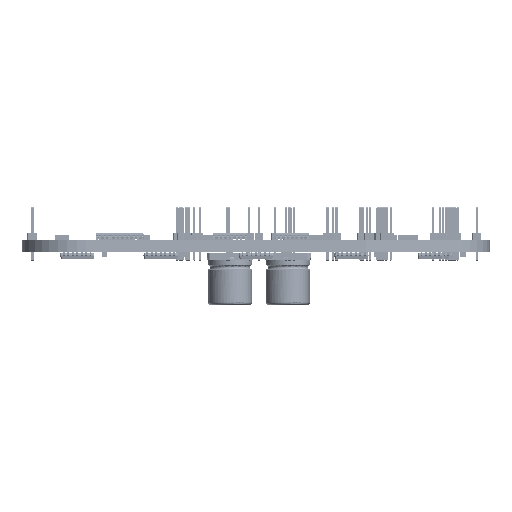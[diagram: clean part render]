
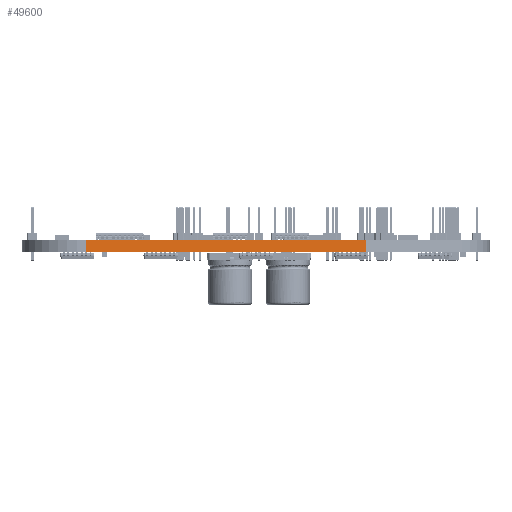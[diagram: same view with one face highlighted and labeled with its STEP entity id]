
A CAD part, left-side view. The second image highlights one B-rep face of the part: STEP entity #49600.
In plain terms, the highlighted planar face has unit normal (-0.986, -0.167, 0).
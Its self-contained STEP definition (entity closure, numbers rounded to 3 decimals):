
#47105 = VERTEX_POINT('',#47106);
#47106 = CARTESIAN_POINT('',(-42.887,24.615,0.));
#47113 = EDGE_CURVE('',#47114,#47105,#47116,.T.);
#47114 = VERTEX_POINT('',#47115);
#47115 = CARTESIAN_POINT('',(-36.,-15.973,0.));
#47116 = LINE('',#47117,#47118);
#47117 = CARTESIAN_POINT('',(-36.,-15.973,0.));
#47118 = VECTOR('',#47119,1.);
#47119 = DIRECTION('',(-0.167,0.986,0.));
#48339 = VERTEX_POINT('',#48340);
#48340 = CARTESIAN_POINT('',(-42.887,24.615,1.6));
#48347 = EDGE_CURVE('',#48348,#48339,#48350,.T.);
#48348 = VERTEX_POINT('',#48349);
#48349 = CARTESIAN_POINT('',(-36.,-15.973,1.6));
#48350 = LINE('',#48351,#48352);
#48351 = CARTESIAN_POINT('',(-36.,-15.973,1.6));
#48352 = VECTOR('',#48353,1.);
#48353 = DIRECTION('',(-0.167,0.986,0.));
#49570 = EDGE_CURVE('',#47105,#48339,#49571,.T.);
#49571 = LINE('',#49572,#49573);
#49572 = CARTESIAN_POINT('',(-42.887,24.615,0.));
#49573 = VECTOR('',#49574,1.);
#49574 = DIRECTION('',(0.,0.,1.));
#49600 = ADVANCED_FACE('',(#49601),#49612,.T.);
#49601 = FACE_BOUND('',#49602,.T.);
#49602 = EDGE_LOOP('',(#49603,#49609,#49610,#49611));
#49603 = ORIENTED_EDGE('',*,*,#49604,.T.);
#49604 = EDGE_CURVE('',#47114,#48348,#49605,.T.);
#49605 = LINE('',#49606,#49607);
#49606 = CARTESIAN_POINT('',(-36.,-15.973,0.));
#49607 = VECTOR('',#49608,1.);
#49608 = DIRECTION('',(0.,0.,1.));
#49609 = ORIENTED_EDGE('',*,*,#48347,.T.);
#49610 = ORIENTED_EDGE('',*,*,#49570,.F.);
#49611 = ORIENTED_EDGE('',*,*,#47113,.F.);
#49612 = PLANE('',#49613);
#49613 = AXIS2_PLACEMENT_3D('',#49614,#49615,#49616);
#49614 = CARTESIAN_POINT('',(-36.,-15.973,0.));
#49615 = DIRECTION('',(-0.986,-0.167,0.));
#49616 = DIRECTION('',(-0.167,0.986,0.));
